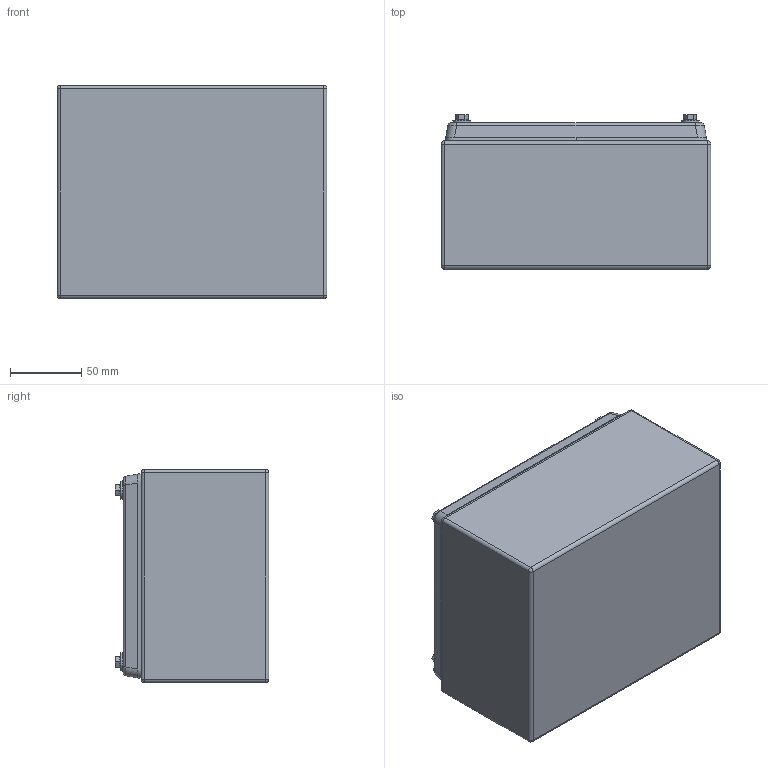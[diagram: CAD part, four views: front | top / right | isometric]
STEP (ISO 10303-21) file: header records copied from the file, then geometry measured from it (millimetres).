
FILE_DESCRIPTION (( 'STEP AP203' ), '1' );
FILE_NAME ('PEH06-316A.STEP', '2021-02-23T15:23:03', ( '' ), ( '' ), 'SwSTEP 2.0', 'SolidWorks 2020', '' );
FILE_SCHEMA (( 'CONFIG_CONTROL_DESIGN' ));
Length unit declared in the file: millimetre
Products named in the file (1): PEH06-316A
Bounding box: 190 x 108.3 x 150 mm (x, y, z)
Volume: 230662.4 mm3; surface area: 311899.4 mm2
Topology: 20 solids, 20 shells, 524 faces, 1304 edges, 842 vertices
Faces by surface type: plane 274, cylinder 187, bspline 27, cone 20, sphere 16
Entity records: 17875 total; most frequent: CARTESIAN_POINT 5158, DIRECTION 2637, ORIENTED_EDGE 2576, EDGE_CURVE 1288, AXIS2_PLACEMENT_3D 913, VERTEX_POINT 842, VECTOR 811, LINE 811
